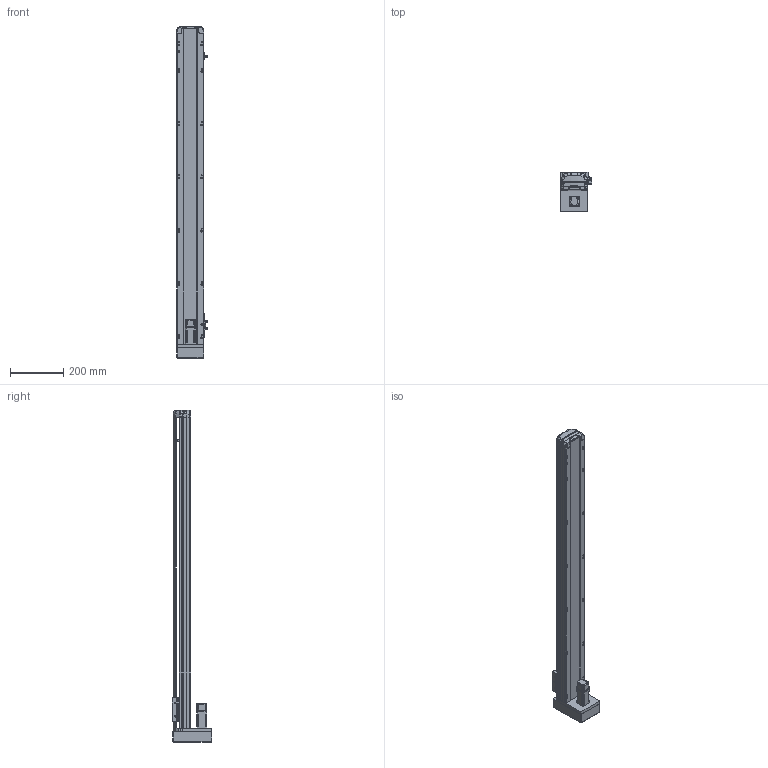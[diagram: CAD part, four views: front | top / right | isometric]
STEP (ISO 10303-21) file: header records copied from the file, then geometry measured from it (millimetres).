
FILE_DESCRIPTION (( 'STEP AP214' ), '1' );
FILE_NAME ('RTH10-XX-1000-M-M10-C4.STEP', '2025-10-25T05:48:42', ( 'Microsoft' ), ( 'Microsoft' ), 'SwSTEP 2.0', 'SolidWorks 2018', '' );
FILE_SCHEMA (( 'AUTOMOTIVE_DESIGN' ));
Length unit declared in the file: millimetre
Products named in the file (10): N_RTH12-M-008-萇儂啣^RTH10-XX-100-M-M10-C4; N_RTH12-GY-001P^RTH10-XX-100-M-M10-C4; N_OMRON EE-SX672 传感器^RTH10-XX-100-M-M10-C4; N_RTH12-M-007P-奻裔^RTH10-XX-100-M-M10-C4; N_RTH12-M-011P-臏倰第菁釱^RTH10-XX-100-M-M10-C4; N_RTH12-GY-004-賑釱^RTH10-XX-100-M-M10-C4; N_P10^RTH10-XX-100-M-M10-C4; N_RTH12-M-018-裔赽^RTH10-XX-100-M-M10-C4; N_RTH13-L-012覜茼え俋离^RTH10-XX-100-M-M10-C4; RTH10-XX-1000-M-M10-C4
Assembly tree (11 placements, depth 2):
  RTH10-XX-1000-M-M10-C4
    N_RTH12-M-011P-臏倰第菁釱^RTH10-XX-100-M-M10-C4
    N_RTH13-L-012覜茼え俋离^RTH10-XX-100-M-M10-C4
    N_OMRON EE-SX672 传感器^RTH10-XX-100-M-M10-C4  x3
    N_P10^RTH10-XX-100-M-M10-C4
    N_RTH12-M-007P-奻裔^RTH10-XX-100-M-M10-C4
    N_RTH12-M-008-萇儂啣^RTH10-XX-100-M-M10-C4
    N_RTH12-M-018-裔赽^RTH10-XX-100-M-M10-C4
    N_RTH12-GY-004-賑釱^RTH10-XX-100-M-M10-C4
    N_RTH12-GY-001P^RTH10-XX-100-M-M10-C4
Bounding box: 116.5 x 149 x 1247.31 mm (x, y, z)
Volume: 5408864.4 mm3; surface area: 807678.9 mm2
Topology: 10 solids, 12 shells, 1973 faces, 5527 edges, 3627 vertices
Faces by surface type: plane 963, cylinder 503, bspline 472, cone 29, sphere 4, torus 2
Entity records: 59831 total; most frequent: CARTESIAN_POINT 23607, ORIENTED_EDGE 8126, DIRECTION 6285, EDGE_CURVE 4069, VERTEX_POINT 2671, LINE 2123, VECTOR 2123, AXIS2_PLACEMENT_3D 2081
